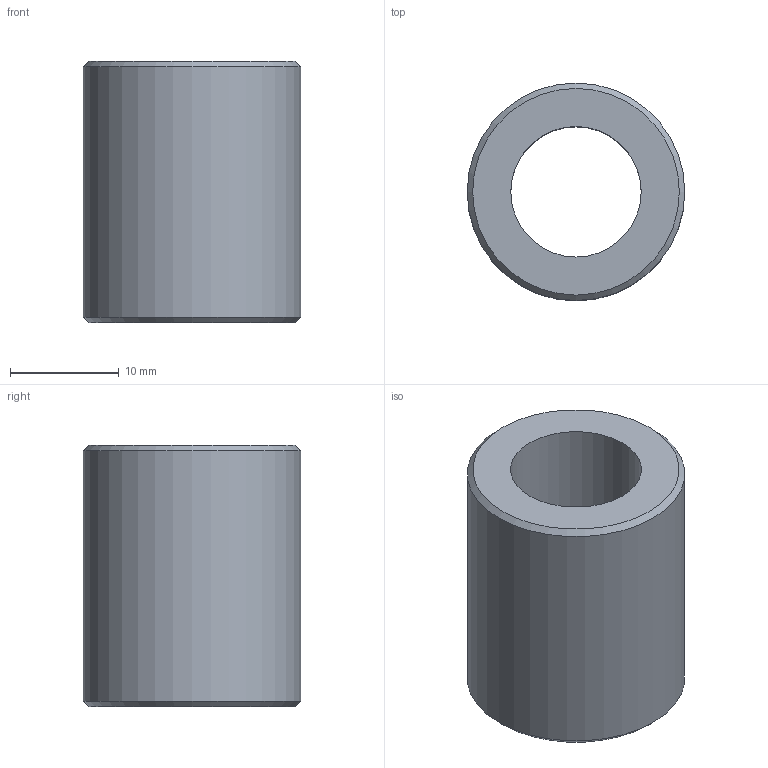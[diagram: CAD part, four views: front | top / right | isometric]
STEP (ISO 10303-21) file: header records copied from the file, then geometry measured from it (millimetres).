
FILE_DESCRIPTION(('STEP AP203'),'1');
FILE_NAME('//192.168.1.1/share/s-4 技術開発/s-4-4_CAD/s-4-4-3_見直し済み/007 修正済み/DB/DB_TOP/DB-12.step','2022-02-08T07:29:16',(' '),(' '),'Spatial InterOp 3D',' ',' ');
FILE_SCHEMA(('CONFIG_CONTROL_DESIGN'));
Length unit declared in the file: millimetre
Products named in the file (1): 1
Bounding box: 20 x 20 x 24 mm (x, y, z)
Volume: 4810 mm3; surface area: 2777.4 mm2
Topology: 1 solids, 1 shells, 6 faces, 10 edges, 6 vertices
Faces by surface type: plane 2, cylinder 2, cone 2
Full cylindrical faces by diameter (mm): 12 x1, 20 x1
Entity records: 172 total; most frequent: DIRECTION 26, CARTESIAN_POINT 19, AXIS2_PLACEMENT_3D 13, EDGE_LOOP 12, ORIENTED_EDGE 12, FACE_OUTER_BOUND 8, ADVANCED_FACE 6, EDGE_CURVE 6
